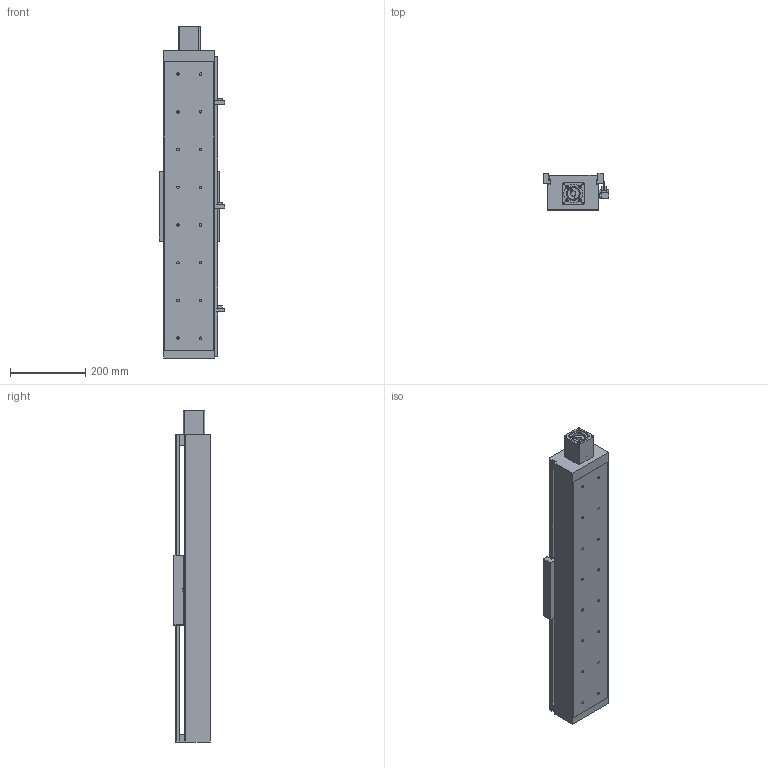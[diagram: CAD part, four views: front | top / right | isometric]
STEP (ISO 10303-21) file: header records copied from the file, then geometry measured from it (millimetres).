
FILE_DESCRIPTION((''),'2;1');
FILE_NAME('E:\libraries\UIA actuator library 2009\standard actuator\UIA136 ball screw 20\UIA136R15NDC-_ _ _-R20_ _-M60-P13-C10-S\UIA136R15NDC-550-R20_ _-M60-P13-C10-S.stp','2016-04-27T11:15:18',('h029'),(''),'Autodesk Inventor 11','Autodesk Inventor 11','');
FILE_SCHEMA(('AUTOMOTIVE_DESIGN { 1 0 10303 214 1 1 1 1 }'));
Length unit declared in the file: millimetre
Products named in the file (10): UIA136R15NDC-550; UIA136R15NDC-body; motor mount F60; SOH-32C; SOH-32C-3; SOH-32C-1; SOH-32C-2; Carriage; Sensor Switch; sensor rail
Assembly tree (9 placements, depth 3):
  UIA136R15NDC-550
    UIA136R15NDC-body
    motor mount F60
    SOH-32C
      SOH-32C-3
      SOH-32C-1
      SOH-32C-2
    Carriage
    Sensor Switch
    sensor rail
Bounding box: 174.5 x 98 x 880 mm (x, y, z)
Volume: 3540369.8 mm3; surface area: 943293.1 mm2
Topology: 8 solids, 8 shells, 491 faces, 1293 edges, 849 vertices
Faces by surface type: plane 311, bspline 138, cylinder 38, cone 4
Full cylindrical faces by diameter (mm): 2.459 x2, 3.242 x2, 4.5 x2, 5.5 x3, 7.5 x2, 10 x2, 12 x1, 14 x1, 32 x3, 37 x1, 41.9 x1, 42.1 x1, 43.5 x1
Entity records: 16115 total; most frequent: CARTESIAN_POINT 4754, ORIENTED_EDGE 2194, DIRECTION 2130, EDGE_CURVE 1097, VECTOR 790, LINE 790, VERTEX_POINT 784, EDGE_LOOP 737
